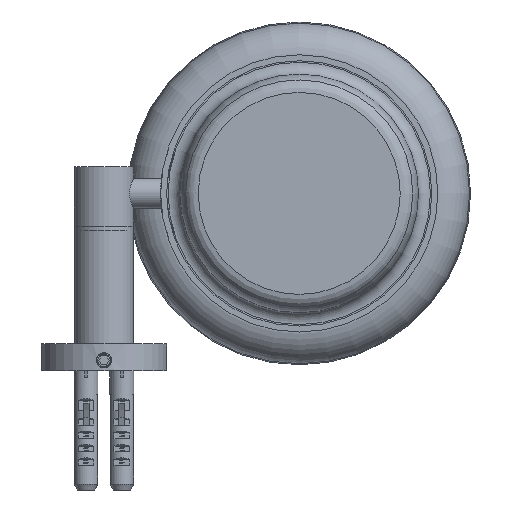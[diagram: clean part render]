
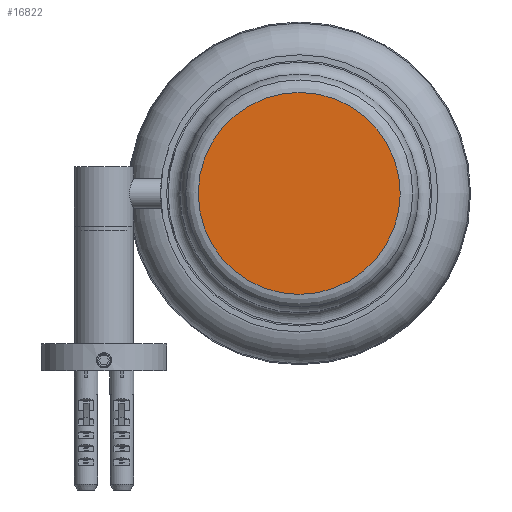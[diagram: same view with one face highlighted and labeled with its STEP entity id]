
A CAD part, front view. The second image highlights one B-rep face of the part: STEP entity #16822.
In plain terms, the highlighted planar face has unit normal (0, -1, 0).
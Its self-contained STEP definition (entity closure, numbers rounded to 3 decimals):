
#4102=FACE_OUTER_BOUND('',#5106,.T.);
#5106=EDGE_LOOP('',(#12133,#12134));
#6110=CIRCLE('',#17996,33.874);
#6111=CIRCLE('',#17997,33.874);
#6826=VERTEX_POINT('',#28338);
#6827=VERTEX_POINT('',#28340);
#8884=EDGE_CURVE('',#6827,#6826,#6110,.T.);
#8885=EDGE_CURVE('',#6826,#6827,#6111,.T.);
#12133=ORIENTED_EDGE('',*,*,#8884,.T.);
#12134=ORIENTED_EDGE('',*,*,#8885,.T.);
#16539=PLANE('',#17998);
#16822=ADVANCED_FACE('',(#4102),#16539,.F.);
#17996=AXIS2_PLACEMENT_3D('',#28341,#19940,#19941);
#17997=AXIS2_PLACEMENT_3D('',#28342,#19942,#19943);
#17998=AXIS2_PLACEMENT_3D('',#28343,#19944,#19945);
#19940=DIRECTION('center_axis',(0.,-1.,0.));
#19941=DIRECTION('ref_axis',(1.,0.,0.));
#19942=DIRECTION('center_axis',(0.,-1.,0.));
#19943=DIRECTION('ref_axis',(1.,0.,0.));
#19944=DIRECTION('center_axis',(0.,1.,0.));
#19945=DIRECTION('ref_axis',(1.,0.,0.));
#28338=CARTESIAN_POINT('',(66.628,-33.5,111.376));
#28340=CARTESIAN_POINT('',(66.626,-33.5,111.));
#28341=CARTESIAN_POINT('Origin',(100.5,-33.5,111.));
#28342=CARTESIAN_POINT('Origin',(100.5,-33.5,111.));
#28343=CARTESIAN_POINT('Origin',(100.5,-33.5,111.));
